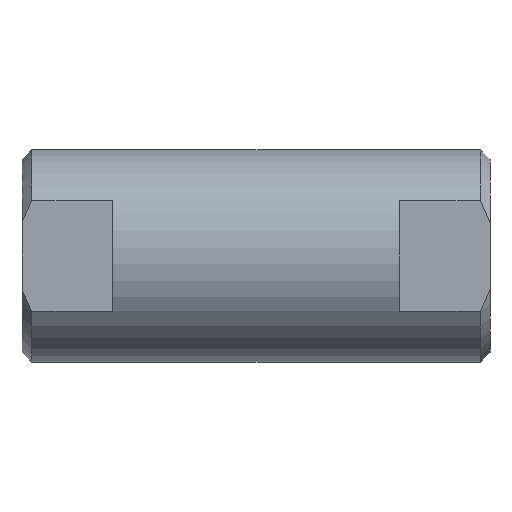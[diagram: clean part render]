
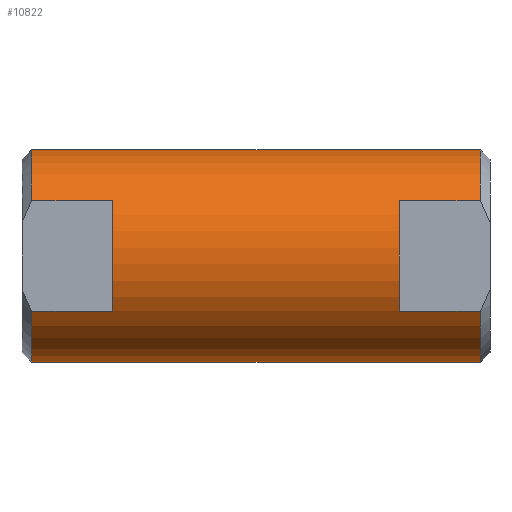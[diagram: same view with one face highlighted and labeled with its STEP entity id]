
A CAD part, front view. The second image highlights one B-rep face of the part: STEP entity #10822.
In plain terms, the highlighted cylindrical face has radius 16.662 mm (diameter 33.325 mm), a partial arc.
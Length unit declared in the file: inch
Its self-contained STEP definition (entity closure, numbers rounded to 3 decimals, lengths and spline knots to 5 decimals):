
#2 = VERTEX_POINT ( 'NONE', #6211 ) ;
#17 = VERTEX_POINT ( 'NONE', #6222 ) ;
#96 = VERTEX_POINT ( 'NONE', #6265 ) ;
#761 = EDGE_CURVE ( 'NONE', #18191, #2, #16560, .T. ) ;
#762 = EDGE_CURVE ( 'NONE', #6422, #17, #16553, .T. ) ;
#766 = EDGE_CURVE ( 'NONE', #17, #18191, #12387, .T. ) ;
#767 = EDGE_CURVE ( 'NONE', #2, #6020, #12647, .T. ) ;
#1013 = EDGE_CURVE ( 'NONE', #5986, #6846, #11913, .T. ) ;
#1017 = EDGE_CURVE ( 'NONE', #6020, #6416, #11884, .T. ) ;
#1024 = EDGE_CURVE ( 'NONE', #6846, #6422, #7795, .T. ) ;
#1030 = EDGE_CURVE ( 'NONE', #6855, #6416, #7813, .T. ) ;
#1191 = CARTESIAN_POINT ( 'NONE',  ( 2.89, -0.56, -0.34167 ) ) ;
#1487 = EDGE_LOOP ( 'NONE', ( #18286, #18230, #18266, #18253, #18249, #18239, #18409, #18360, #18377, #18373, #18371, #18383 ) ) ;
#5986 = VERTEX_POINT ( 'NONE', #17060 ) ;
#6020 = VERTEX_POINT ( 'NONE', #17080 ) ;
#6211 = CARTESIAN_POINT ( 'NONE',  ( 0.56, -0.56, -0.34167 ) ) ;
#6222 = CARTESIAN_POINT ( 'NONE',  ( 0.06, -0.56, 0.34167 ) ) ;
#6265 = CARTESIAN_POINT ( 'NONE',  ( 2.33, -0.56, 0.34167 ) ) ;
#6416 = VERTEX_POINT ( 'NONE', #17329 ) ;
#6422 = VERTEX_POINT ( 'NONE', #17335 ) ;
#6846 = VERTEX_POINT ( 'NONE', #15701 ) ;
#6855 = VERTEX_POINT ( 'NONE', #15710 ) ;
#7771 = CARTESIAN_POINT ( 'NONE',  ( 2.83, 0., 0. ) ) ;
#7772 = DIRECTION ( 'NONE',  ( -1., 0., 0. ) ) ;
#7773 = DIRECTION ( 'NONE',  ( 0., 0., 1. ) ) ;
#7785 = CARTESIAN_POINT ( 'NONE',  ( 0.06, 0., 0. ) ) ;
#7786 = DIRECTION ( 'NONE',  ( 1., 0., 0. ) ) ;
#7787 = DIRECTION ( 'NONE',  ( 0., 0., 1. ) ) ;
#7795 = LINE ( 'NONE', #7796, #12138 ) ;
#7796 = CARTESIAN_POINT ( 'NONE',  ( 2.89, 0., 0.656 ) ) ;
#7806 = DIRECTION ( 'NONE',  ( -1., 0., 0. ) ) ;
#7813 = LINE ( 'NONE', #7814, #12135 ) ;
#7814 = CARTESIAN_POINT ( 'NONE',  ( 2.89, 0., -0.656 ) ) ;
#7823 = DIRECTION ( 'NONE',  ( -1., 0., 0. ) ) ;
#8269 = CARTESIAN_POINT ( 'NONE',  ( 2.83, 0., 0. ) ) ;
#8270 = DIRECTION ( 'NONE',  ( -1., 0., 0. ) ) ;
#8271 = DIRECTION ( 'NONE',  ( 0., 0., 1. ) ) ;
#8518 = CARTESIAN_POINT ( 'NONE',  ( 2.33, 0., 0. ) ) ;
#8519 = DIRECTION ( 'NONE',  ( -1., 0., 0. ) ) ;
#8520 = DIRECTION ( 'NONE',  ( 0., 0., 1. ) ) ;
#8786 = LINE ( 'NONE', #8787, #11176 ) ;
#8787 = CARTESIAN_POINT ( 'NONE',  ( 2.89, -0.56, 0.34167 ) ) ;
#8788 = DIRECTION ( 'NONE',  ( 1., 0., 0. ) ) ;
#8808 = LINE ( 'NONE', #8809, #11160 ) ;
#8809 = CARTESIAN_POINT ( 'NONE',  ( 2.89, -0.56, -0.34167 ) ) ;
#8810 = DIRECTION ( 'NONE',  ( -1., 0., 0. ) ) ;
#10674 = CARTESIAN_POINT ( 'NONE',  ( 2.83, -0.56, -0.34167 ) ) ;
#10676 = CARTESIAN_POINT ( 'NONE',  ( 2.33, -0.56, -0.34167 ) ) ;
#10691 = CARTESIAN_POINT ( 'NONE',  ( 0.56, -0.56, 0.34167 ) ) ;
#10822 = ADVANCED_FACE ( 'NONE', ( #16334 ), #16340, .T. ) ;
#10863 = EDGE_CURVE ( 'NONE', #6855, #18171, #11187, .T. ) ;
#10869 = EDGE_CURVE ( 'NONE', #18173, #96, #11186, .T. ) ;
#10878 = EDGE_CURVE ( 'NONE', #96, #5986, #8786, .T. ) ;
#10882 = EDGE_CURVE ( 'NONE', #18171, #18173, #8808, .T. ) ;
#10891 = DIRECTION ( 'NONE',  ( 0., 0., 1. ) ) ;
#10892 = DIRECTION ( 'NONE',  ( 1., 0., 0. ) ) ;
#10893 = CARTESIAN_POINT ( 'NONE',  ( 0.56, 0., 0. ) ) ;
#11160 = VECTOR ( 'NONE', #8810, 39.37008 ) ;
#11176 = VECTOR ( 'NONE', #8788, 39.37008 ) ;
#11177 = AXIS2_PLACEMENT_3D ( 'NONE', #8518, #8519, #8520 ) ;
#11186 = CIRCLE ( 'NONE', #11177, 0.656 ) ;
#11187 = CIRCLE ( 'NONE', #11243, 0.656 ) ;
#11243 = AXIS2_PLACEMENT_3D ( 'NONE', #8269, #8270, #8271 ) ;
#11268 = AXIS2_PLACEMENT_3D ( 'NONE', #16336, #16322, #16342 ) ;
#11884 = CIRCLE ( 'NONE', #12057, 0.656 ) ;
#11913 = CIRCLE ( 'NONE', #11960, 0.656 ) ;
#11960 = AXIS2_PLACEMENT_3D ( 'NONE', #7771, #7772, #7773 ) ;
#12057 = AXIS2_PLACEMENT_3D ( 'NONE', #7785, #7786, #7787 ) ;
#12135 = VECTOR ( 'NONE', #7823, 39.37008 ) ;
#12138 = VECTOR ( 'NONE', #7806, 39.37008 ) ;
#12382 = CARTESIAN_POINT ( 'NONE',  ( 2.89, -0.56, 0.34167 ) ) ;
#12387 = LINE ( 'NONE', #12382, #16540 ) ;
#12388 = DIRECTION ( 'NONE',  ( 0., 0., 1. ) ) ;
#12389 = DIRECTION ( 'NONE',  ( 1., 0., 0. ) ) ;
#12390 = CARTESIAN_POINT ( 'NONE',  ( 0.06, 0., 0. ) ) ;
#12647 = LINE ( 'NONE', #1191, #16531 ) ;
#12648 = DIRECTION ( 'NONE',  ( 1., 0., 0. ) ) ;
#12650 = DIRECTION ( 'NONE',  ( -1., 0., 0. ) ) ;
#15701 = CARTESIAN_POINT ( 'NONE',  ( 2.83, 0., 0.656 ) ) ;
#15710 = CARTESIAN_POINT ( 'NONE',  ( 2.83, 0., -0.656 ) ) ;
#16322 = DIRECTION ( 'NONE',  ( -1., 0., 0. ) ) ;
#16334 = FACE_OUTER_BOUND ( 'NONE', #1487, .T. ) ;
#16336 = CARTESIAN_POINT ( 'NONE',  ( 2.89, 0., 0. ) ) ;
#16340 = CYLINDRICAL_SURFACE ( 'NONE', #11268, 0.656 ) ;
#16342 = DIRECTION ( 'NONE',  ( 0., 0., 1. ) ) ;
#16531 = VECTOR ( 'NONE', #12650, 39.37008 ) ;
#16540 = VECTOR ( 'NONE', #12648, 39.37008 ) ;
#16545 = AXIS2_PLACEMENT_3D ( 'NONE', #12390, #12389, #12388 ) ;
#16549 = AXIS2_PLACEMENT_3D ( 'NONE', #10893, #10892, #10891 ) ;
#16553 = CIRCLE ( 'NONE', #16545, 0.656 ) ;
#16560 = CIRCLE ( 'NONE', #16549, 0.656 ) ;
#17060 = CARTESIAN_POINT ( 'NONE',  ( 2.83, -0.56, 0.34167 ) ) ;
#17080 = CARTESIAN_POINT ( 'NONE',  ( 0.06, -0.56, -0.34167 ) ) ;
#17329 = CARTESIAN_POINT ( 'NONE',  ( 0.06, 0., -0.656 ) ) ;
#17335 = CARTESIAN_POINT ( 'NONE',  ( 0.06, 0., 0.656 ) ) ;
#18171 = VERTEX_POINT ( 'NONE', #10674 ) ;
#18173 = VERTEX_POINT ( 'NONE', #10676 ) ;
#18191 = VERTEX_POINT ( 'NONE', #10691 ) ;
#18230 = ORIENTED_EDGE ( 'NONE', *, *, #10863, .T. ) ;
#18239 = ORIENTED_EDGE ( 'NONE', *, *, #1013, .T. ) ;
#18249 = ORIENTED_EDGE ( 'NONE', *, *, #10878, .T. ) ;
#18253 = ORIENTED_EDGE ( 'NONE', *, *, #10869, .T. ) ;
#18266 = ORIENTED_EDGE ( 'NONE', *, *, #10882, .T. ) ;
#18286 = ORIENTED_EDGE ( 'NONE', *, *, #1030, .F. ) ;
#18360 = ORIENTED_EDGE ( 'NONE', *, *, #762, .T. ) ;
#18371 = ORIENTED_EDGE ( 'NONE', *, *, #767, .T. ) ;
#18373 = ORIENTED_EDGE ( 'NONE', *, *, #761, .T. ) ;
#18377 = ORIENTED_EDGE ( 'NONE', *, *, #766, .T. ) ;
#18383 = ORIENTED_EDGE ( 'NONE', *, *, #1017, .T. ) ;
#18409 = ORIENTED_EDGE ( 'NONE', *, *, #1024, .T. ) ;
